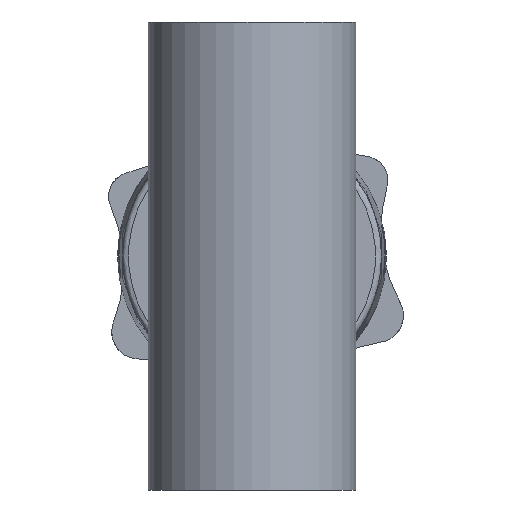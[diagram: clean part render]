
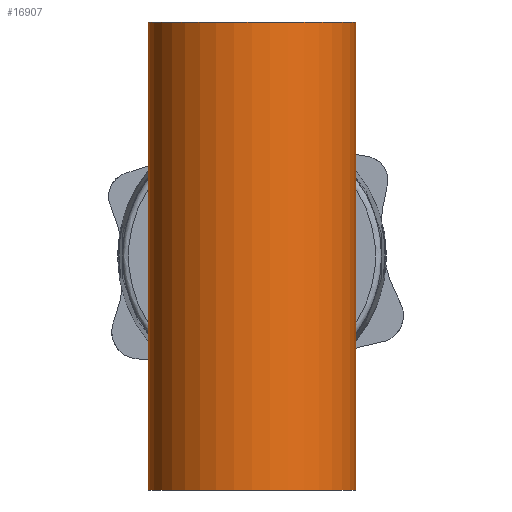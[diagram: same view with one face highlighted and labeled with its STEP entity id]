
A CAD part, front view. The second image highlights one B-rep face of the part: STEP entity #16907.
In plain terms, the highlighted cylindrical face has radius 17.225 mm (diameter 34.45 mm), a partial arc.
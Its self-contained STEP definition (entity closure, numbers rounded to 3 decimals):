
#1977 = AXIS2_PLACEMENT_3D ( 'NONE', #8989, #34884, #28058 ) ;
#2503 = ORIENTED_EDGE ( 'NONE', *, *, #12095, .T. ) ;
#2619 = LINE ( 'NONE', #5913, #28585 ) ;
#3591 = EDGE_CURVE ( 'NONE', #24512, #20758, #32921, .T. ) ;
#4535 = DIRECTION ( 'NONE',  ( 0., 0., -1. ) ) ;
#4743 = AXIS2_PLACEMENT_3D ( 'NONE', #16796, #29412, #30449 ) ;
#5913 = CARTESIAN_POINT ( 'NONE',  ( -17.225, -0.175, 38.8 ) ) ;
#6516 = DIRECTION ( 'NONE',  ( 0., 0., -1. ) ) ;
#8989 = CARTESIAN_POINT ( 'NONE',  ( 0., -0.175, -38.8 ) ) ;
#10753 = CARTESIAN_POINT ( 'NONE',  ( 17.225, -0.175, 38.8 ) ) ;
#11166 = DIRECTION ( 'NONE',  ( 1., 0., 0. ) ) ;
#12095 = EDGE_CURVE ( 'NONE', #33396, #21871, #16526, .T. ) ;
#14478 = CARTESIAN_POINT ( 'NONE',  ( 17.225, -0.175, -38.8 ) ) ;
#14715 = CARTESIAN_POINT ( 'NONE',  ( 0., -0.175, 38.8 ) ) ;
#16526 = CIRCLE ( 'NONE', #1977, 17.225 ) ;
#16589 = FACE_OUTER_BOUND ( 'NONE', #23860, .T. ) ;
#16796 = CARTESIAN_POINT ( 'NONE',  ( 0., -0.175, 38.8 ) ) ;
#16907 = ADVANCED_FACE ( 'NONE', ( #16589 ), #19904, .T. ) ;
#19682 = LINE ( 'NONE', #10753, #32836 ) ;
#19904 = CYLINDRICAL_SURFACE ( 'NONE', #4743, 17.225 ) ;
#20758 = VERTEX_POINT ( 'NONE', #26205 ) ;
#21871 = VERTEX_POINT ( 'NONE', #14478 ) ;
#22632 = ORIENTED_EDGE ( 'NONE', *, *, #28850, .F. ) ;
#22953 = CARTESIAN_POINT ( 'NONE',  ( -17.225, -0.175, -38.8 ) ) ;
#23860 = EDGE_LOOP ( 'NONE', ( #22632, #26949, #37733, #2503 ) ) ;
#24031 = DIRECTION ( 'NONE',  ( 0., 0., 1. ) ) ;
#24512 = VERTEX_POINT ( 'NONE', #30079 ) ;
#26205 = CARTESIAN_POINT ( 'NONE',  ( 17.225, -0.175, 38.8 ) ) ;
#26949 = ORIENTED_EDGE ( 'NONE', *, *, #3591, .F. ) ;
#28058 = DIRECTION ( 'NONE',  ( 1., 0., 0. ) ) ;
#28279 = AXIS2_PLACEMENT_3D ( 'NONE', #14715, #24031, #11166 ) ;
#28585 = VECTOR ( 'NONE', #6516, 1000. ) ;
#28850 = EDGE_CURVE ( 'NONE', #20758, #21871, #19682, .T. ) ;
#29412 = DIRECTION ( 'NONE',  ( 0., 0., -1. ) ) ;
#30079 = CARTESIAN_POINT ( 'NONE',  ( -17.225, -0.175, 38.8 ) ) ;
#30449 = DIRECTION ( 'NONE',  ( -1., 0., 0. ) ) ;
#32836 = VECTOR ( 'NONE', #4535, 1000. ) ;
#32921 = CIRCLE ( 'NONE', #28279, 17.225 ) ;
#33396 = VERTEX_POINT ( 'NONE', #22953 ) ;
#34884 = DIRECTION ( 'NONE',  ( 0., 0., 1. ) ) ;
#37238 = EDGE_CURVE ( 'NONE', #24512, #33396, #2619, .T. ) ;
#37733 = ORIENTED_EDGE ( 'NONE', *, *, #37238, .T. ) ;
